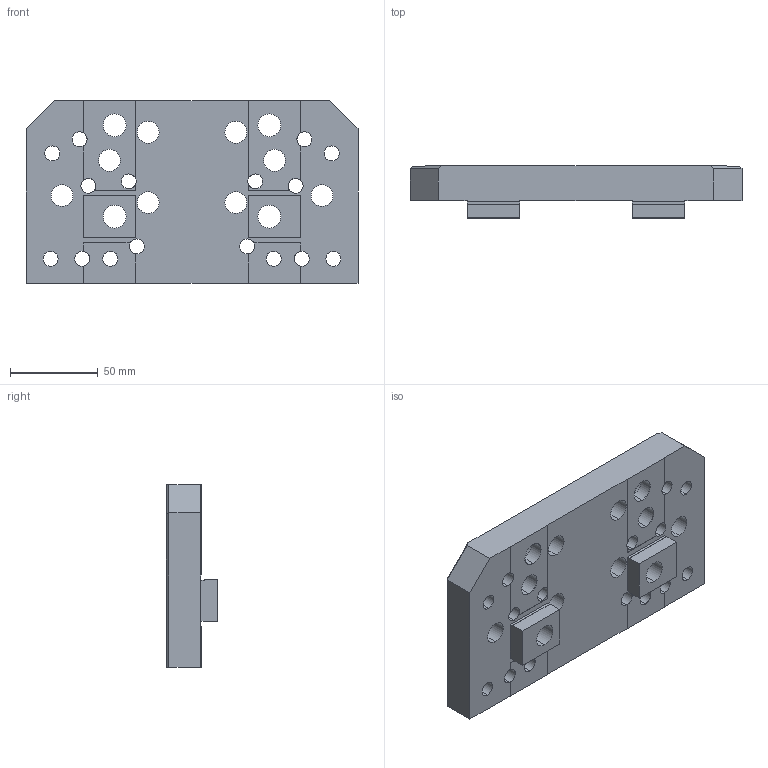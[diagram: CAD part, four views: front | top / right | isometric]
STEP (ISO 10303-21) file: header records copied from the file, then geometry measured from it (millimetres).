
FILE_DESCRIPTION((''),'2;1');
FILE_NAME('FG_VC_ACCES_SCFPVNP001','2026-03-16T12:38:19',('Admin'),(''),'CREO PARAMETRIC BY PTC INC, 2025010','CREO PARAMETRIC BY PTC INC, 2025010','');
FILE_SCHEMA(('CONFIG_CONTROL_DESIGN'));
Length unit declared in the file: millimetre
Products named in the file (1): FG_VC_ACCES_SCFPVNP001
Bounding box: 189 x 29.5 x 104 mm (x, y, z)
Volume: 317568.5 mm3; surface area: 69062 mm2
Topology: 1 solids, 3 shells, 318 faces, 898 edges, 594 vertices
Faces by surface type: cylinder 160, plane 118, cone 40
Entity records: 10665 total; most frequent: CARTESIAN_POINT 1961, DIRECTION 1900, ORIENTED_EDGE 1788, EDGE_CURVE 894, AXIS2_PLACEMENT_3D 724, VERTEX_POINT 594, VECTOR 452, LINE 452
